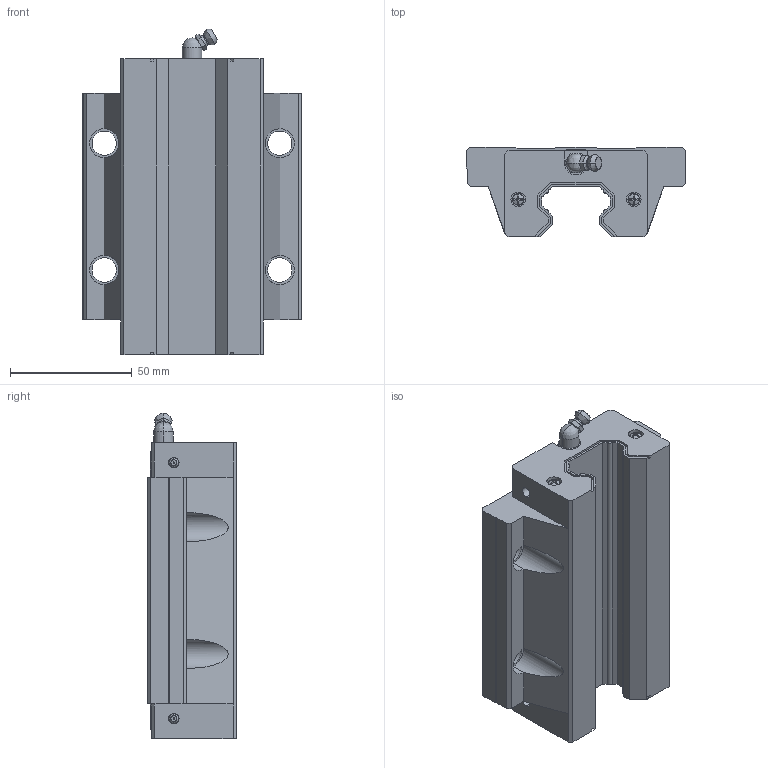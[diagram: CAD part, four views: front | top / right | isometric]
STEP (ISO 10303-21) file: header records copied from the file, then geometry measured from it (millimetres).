
FILE_DESCRIPTION (( 'STEP AP203' ), '1' );
FILE_NAME ('HGW30HC.STEP', '2021-10-25T04:43:39', ( '微软用户' ), ( '微软中国' ), 'SwSTEP 2.0', 'SolidWorks 2018', '' );
FILE_SCHEMA (( 'CONFIG_CONTROL_DESIGN' ));
Length unit declared in the file: millimetre
Products named in the file (1): HGW30HC
Bounding box: 90 x 36.5 x 133.4 mm (x, y, z)
Volume: 246032 mm3; surface area: 40275.5 mm2
Topology: 1 solids, 1 shells, 320 faces, 830 edges, 537 vertices
Faces by surface type: plane 208, cylinder 64, bspline 26, cone 22
Entity records: 10640 total; most frequent: CARTESIAN_POINT 2890, ORIENTED_EDGE 1652, DIRECTION 1497, EDGE_CURVE 826, VERTEX_POINT 537, LINE 533, VECTOR 533, AXIS2_PLACEMENT_3D 482
